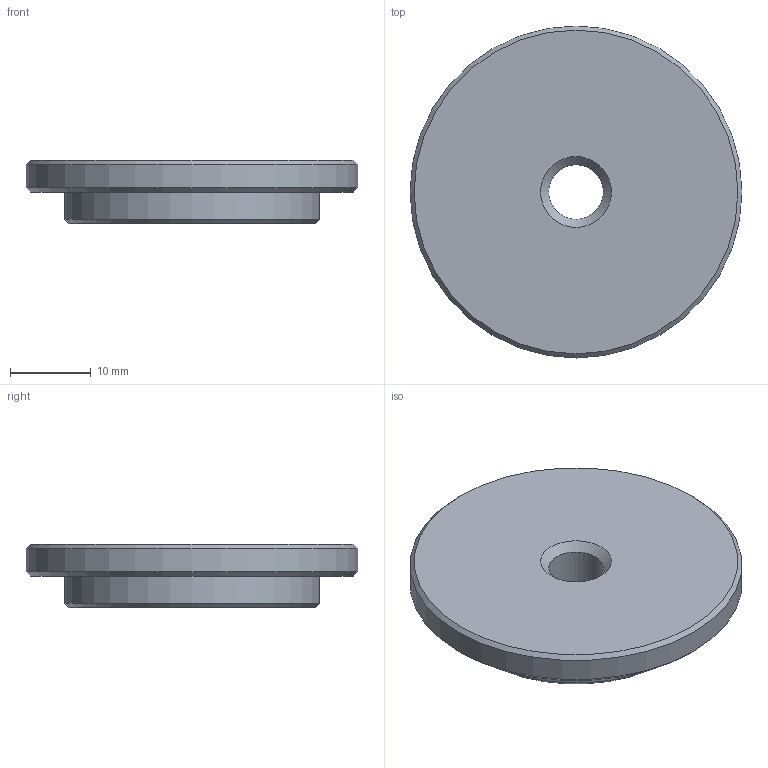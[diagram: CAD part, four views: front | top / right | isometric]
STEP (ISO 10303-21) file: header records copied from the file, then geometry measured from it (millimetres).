
FILE_DESCRIPTION(/* description */ (''),/* implementation_level */ '2;1');
FILE_NAME(/* name */ 'T:\CAD\Neuentwicklungen\G-AC063 Auto Connector\G-ZS063-080-1\3D - G-ZS063-080-1.stp',/* time_stamp */ '2021-06-09T14:58:15+02:00',/* author */ ('vbednarz'),/* organization */ (''),/* preprocessor_version */ 'ST-DEVELOPER v17',/* originating_system */ 'Autodesk Inventor 2018',/* authorisation */ '');
FILE_SCHEMA (('CONFIG_CONTROL_DESIGN'));
Length unit declared in the file: millimetre
Products named in the file (1): 3D - G-ZS063-080-1.step
Bounding box: 41 x 41 x 7.8 mm (x, y, z)
Volume: 7839.9 mm3; surface area: 3492.8 mm2
Topology: 1 solids, 1 shells, 11 faces, 24 edges, 16 vertices
Faces by surface type: cone 5, cylinder 3, plane 3
Full cylindrical faces by diameter (mm): 6.75 x1, 31.5 x1, 41 x1
Entity records: 375 total; most frequent: DIRECTION 64, CARTESIAN_POINT 52, ORIENTED_EDGE 48, AXIS2_PLACEMENT_3D 28, EDGE_CURVE 24, CIRCLE 16, VERTEX_POINT 16, EDGE_LOOP 14
